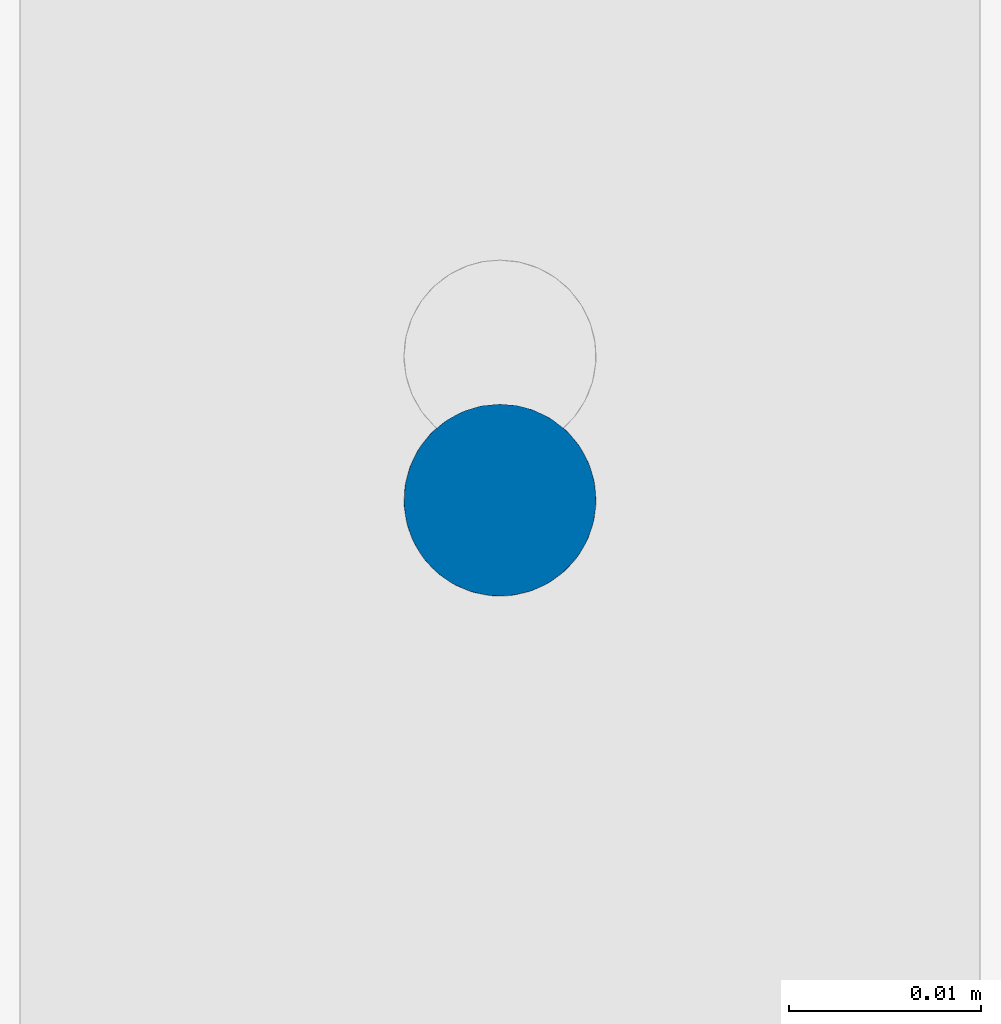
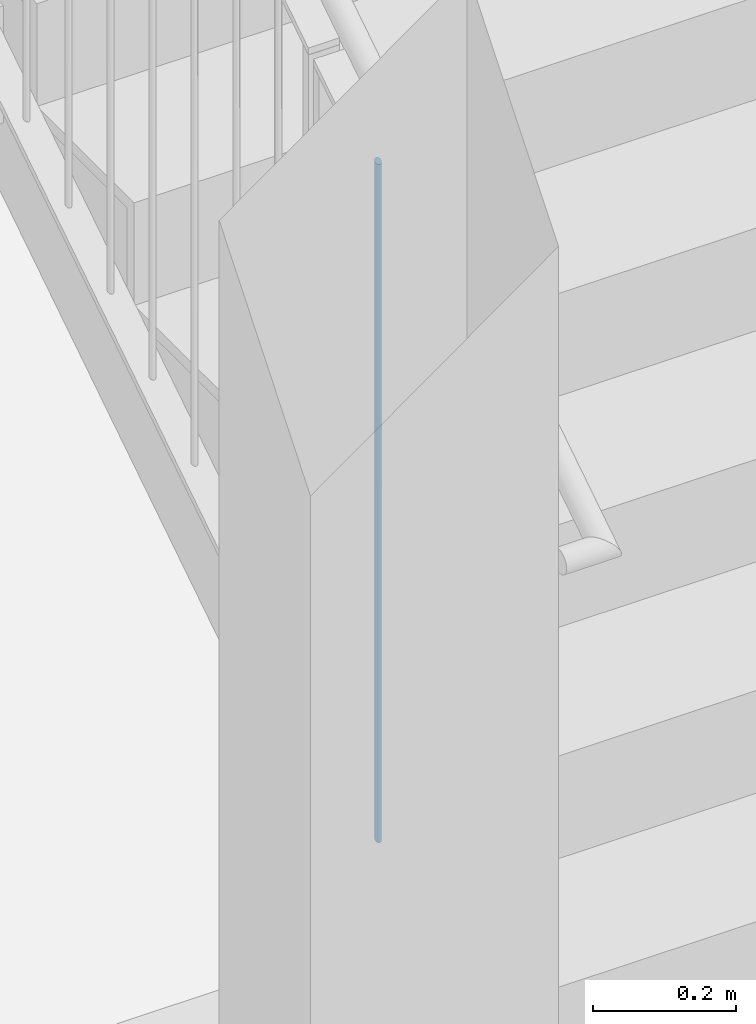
# One storey, part 9 of 296: 1 column.
"""IFC2X3 building model written with IfcOpenShell, lengths in millimetres."""

from ifc_helpers import new_model, entity, si_unit, converted_unit, frame, origin, origin_with_axes, origin_2d, place, context, project, spatial, circle, extrude, clip, halfspace, material, element, save


model = new_model("IFC2X3")

# Units and contexts
model_context = context("Model", 3, precision=1e-09, world=origin_with_axes())
ifc_project = project(units=[si_unit("LENGTHUNIT", "METRE", prefix="MILLI"), si_unit("AREAUNIT", "SQUARE_METRE"), si_unit("VOLUMEUNIT", "CUBIC_METRE"), converted_unit("PLANEANGLEUNIT", "DEGREE", entity("IfcPlaneAngleMeasure", 0.01745329), si_unit("PLANEANGLEUNIT", "RADIAN"), dimensions=[0, 0, 0, 0, 0, 0, 0])], contexts=[model_context])

# Site, building, storey
site_placement = place(None, origin_with_axes())
site = spatial("IfcSite", under=ifc_project, at=site_placement, Name="TZD-S?d | Treppenhausgel?nder", CompositionType="ELEMENT")
building_placement = place(site_placement, origin_with_axes())
building = spatial("IfcBuilding", under=site, at=building_placement, Name="Struktur 1", CompositionType="ELEMENT")
storey_placement = place(building_placement, origin_with_axes())
storey = spatial("IfcBuildingStorey", under=building, at=storey_placement, Name="Default Storey", CompositionType="ELEMENT", Elevation=0.0)

# Column
ifc_material = material(Name="S235JR")
column_placement = place(None, frame((-45.0, -3603.75, 5355.156236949), z_axis=(0.0, 0.0, 1.0), x_axis=(0.0, 1.0, 0.0)))
element("IfcColumn", 1, at=column_placement, inside=storey, material=ifc_material, Name="-", ObjectType="-", context=model_context, shape_type="Clipping", body=[
    clip(clip(extrude(circle(Radius=5.0, at=origin_2d()), origin(), (0.0, 0.0, 1.0), 1184.929585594), halfspace(frame((98.162619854, -45.0, 77.707069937), z_axis=(-0.542183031, 0.0, 0.840260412), x_axis=(0.0, -1.0, 0.0)), True)), halfspace(frame((-428.571061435, -45.0, 894.024502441), z_axis=(0.542183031, 0.0, -0.840260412), x_axis=(0.0, 1.0, 0.0)), True)),
])

save(model, "model.ifc")
